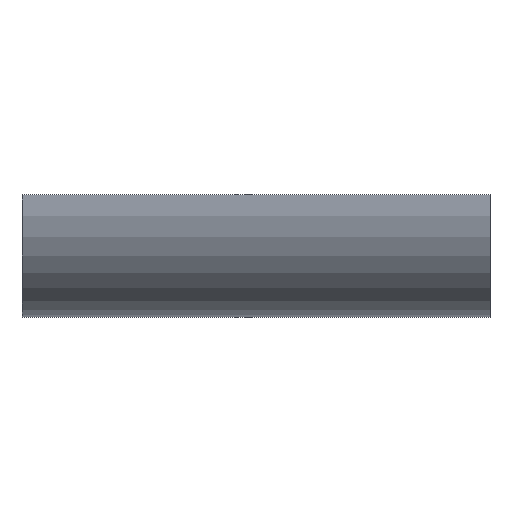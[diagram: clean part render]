
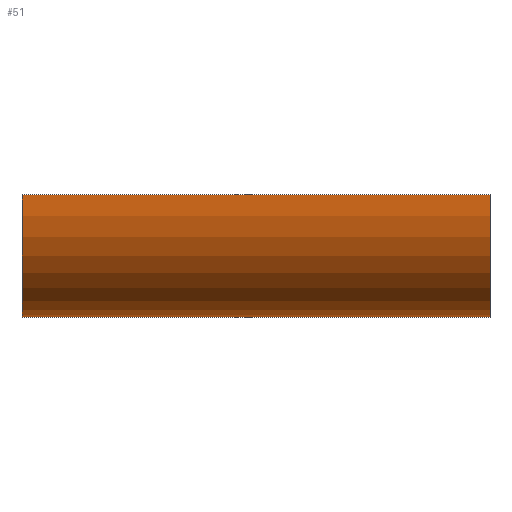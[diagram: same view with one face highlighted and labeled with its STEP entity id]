
A CAD part, left-side view. The second image highlights one B-rep face of the part: STEP entity #51.
In plain terms, the highlighted cylindrical face has radius 450 mm (diameter 900 mm), a partial arc.
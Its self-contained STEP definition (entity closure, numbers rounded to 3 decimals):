
#13 = DIRECTION ( 'NONE',  ( 0., 0., -1. ) ) ;
#51 = ADVANCED_FACE ( 'NONE', ( #269 ), #267, .T. ) ;
#55 = ORIENTED_EDGE ( 'NONE', *, *, #437, .T. ) ;
#143 = CARTESIAN_POINT ( 'NONE',  ( 750., 0., 0. ) ) ;
#154 = LINE ( 'NONE', #584, #645 ) ;
#200 = DIRECTION ( 'NONE',  ( 0., 0., -1. ) ) ;
#211 = ORIENTED_EDGE ( 'NONE', *, *, #289, .F. ) ;
#215 = AXIS2_PLACEMENT_3D ( 'NONE', #641, #649, #381 ) ;
#259 = DIRECTION ( 'NONE',  ( 0., -1., 0. ) ) ;
#264 = EDGE_CURVE ( 'NONE', #632, #551, #374, .T. ) ;
#267 = CYLINDRICAL_SURFACE ( 'NONE', #215, 450. ) ;
#269 = FACE_OUTER_BOUND ( 'NONE', #614, .T. ) ;
#280 = ORIENTED_EDGE ( 'NONE', *, *, #264, .T. ) ;
#289 = EDGE_CURVE ( 'NONE', #632, #533, #512, .T. ) ;
#303 = CIRCLE ( 'NONE', #317, 450. ) ;
#317 = AXIS2_PLACEMENT_3D ( 'NONE', #370, #575, #200 ) ;
#351 = ORIENTED_EDGE ( 'NONE', *, *, #451, .F. ) ;
#352 = CARTESIAN_POINT ( 'NONE',  ( 300., 1725., 450. ) ) ;
#354 = CARTESIAN_POINT ( 'NONE',  ( 750., 1725., 0. ) ) ;
#370 = CARTESIAN_POINT ( 'NONE',  ( 300., 0., 0. ) ) ;
#374 = CIRCLE ( 'NONE', #549, 450. ) ;
#375 = VECTOR ( 'NONE', #399, 1000. ) ;
#381 = DIRECTION ( 'NONE',  ( 0., 0., 1. ) ) ;
#399 = DIRECTION ( 'NONE',  ( 0., -1., 0. ) ) ;
#437 = EDGE_CURVE ( 'NONE', #551, #489, #154, .T. ) ;
#451 = EDGE_CURVE ( 'NONE', #533, #489, #303, .T. ) ;
#466 = CARTESIAN_POINT ( 'NONE',  ( 750., 1725., 0. ) ) ;
#489 = VERTEX_POINT ( 'NONE', #637 ) ;
#512 = LINE ( 'NONE', #354, #375 ) ;
#533 = VERTEX_POINT ( 'NONE', #143 ) ;
#549 = AXIS2_PLACEMENT_3D ( 'NONE', #562, #259, #13 ) ;
#551 = VERTEX_POINT ( 'NONE', #352 ) ;
#562 = CARTESIAN_POINT ( 'NONE',  ( 300., 1725., 0. ) ) ;
#575 = DIRECTION ( 'NONE',  ( 0., -1., 0. ) ) ;
#584 = CARTESIAN_POINT ( 'NONE',  ( 300., 1725., 450. ) ) ;
#614 = EDGE_LOOP ( 'NONE', ( #351, #211, #280, #55 ) ) ;
#632 = VERTEX_POINT ( 'NONE', #466 ) ;
#637 = CARTESIAN_POINT ( 'NONE',  ( 300., 0., 450. ) ) ;
#641 = CARTESIAN_POINT ( 'NONE',  ( 300., 1725., 0. ) ) ;
#645 = VECTOR ( 'NONE', #689, 1000. ) ;
#649 = DIRECTION ( 'NONE',  ( 0., -1., 0. ) ) ;
#689 = DIRECTION ( 'NONE',  ( 0., -1., 0. ) ) ;
